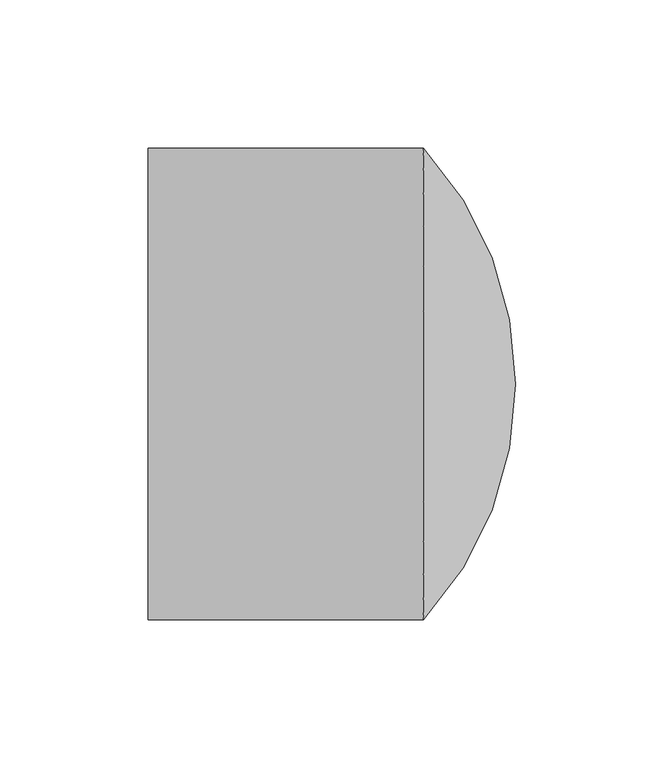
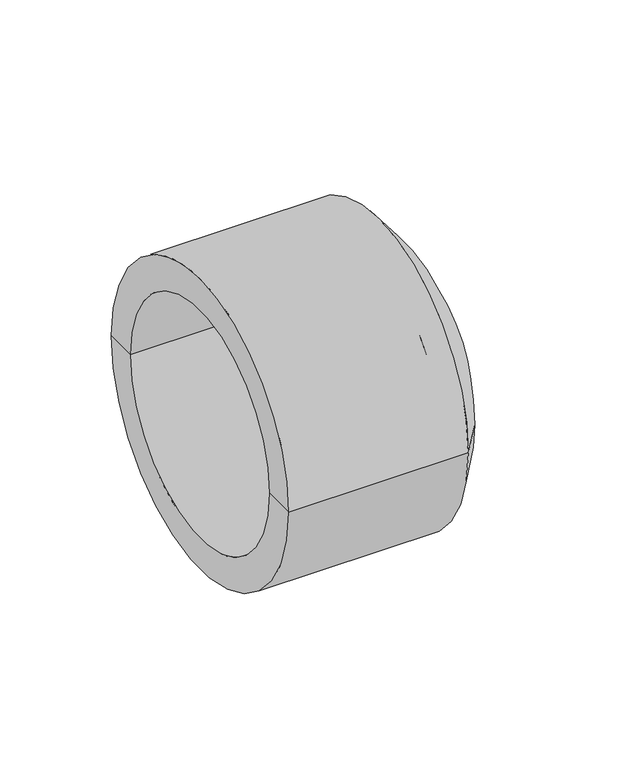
"""IFC4 building model written with IfcOpenShell, lengths in millimetres: pipe fitting geometry, EGB_VASEN_ PPR_Tapon a tope WXB700 : Tapón a tope WXRB700."""

from ifc_helpers import new_model, si_unit, point, frame, origin, place, context, project, spatial, polyline, circle_curve, ellipse_curve, trimmed, source, transform, mapped, element, save
from ifc_brep_helpers import plane_surface, cylinder_surface, revolved_surface, advanced_brep


def pipe_fitting_498d0c6c(model_context):
    return source(origin(), model_context, "Body", "AdvancedBrep", [
        advanced_brep(
        [(0.0, -79.5, 0.0), (0.0, 79.5, 0.0), (93.0, 79.5, 0.0), (93.0, -79.5, 0.0), (0.0, -62.5, 0.0), (0.0, 62.5, 0.0), (85.1982207, -62.5, 0.0), (85.1982207, 62.5, 0.0), (107.0, 0.0, 0.0), (124.0, 0.0, 0.0)],
        [
            (0, 1, circle_curve(frame((0.0, 0.0, 0.0), z_axis=(1.0, 0.0, 0.0), x_axis=(0.0, 1.0, 0.0)), 79.5)),
            (1, 2),
            (2, 3, circle_curve(frame((93.0, 0.0, 0.0), z_axis=(-1.0, 0.0, 0.0), x_axis=(0.0, 1.0, 0.0)), 79.5)),
            (3, 0),
            (1, 0, circle_curve(frame((0.0, 0.0, 0.0), z_axis=(1.0, 0.0, 0.0), x_axis=(0.0, 1.0, 0.0)), 79.5)),
            (3, 2, circle_curve(frame((93.0, 0.0, 0.0), z_axis=(-1.0, 0.0, 0.0), x_axis=(0.0, 1.0, 0.0)), 79.5)),
            (4, 5, circle_curve(frame((0.0, 0.0, 0.0), z_axis=(1.0, 0.0, 0.0), x_axis=(0.0, 1.0, 0.0)), 62.5)),
            (5, 1),
            (0, 4),
            (5, 4, circle_curve(frame((0.0, 0.0, 0.0), z_axis=(1.0, 0.0, 0.0), x_axis=(0.0, 1.0, 0.0)), 62.5)),
            (6, 7, circle_curve(frame((85.1982207, 0.0, 0.0), z_axis=(1.0, 0.0, 0.0), x_axis=(0.0, 1.0, 0.0)), 62.5)),
            (7, 5),
            (4, 6),
            (7, 6, circle_curve(frame((85.1982207, 0.0, 0.0), z_axis=(1.0, 0.0, 0.0), x_axis=(0.0, 1.0, 0.0)), 62.5)),
            (8, 7, circle_curve(frame((6.958891, 0.1553537, 0.0), z_axis=(0.0, 0.0, 1.0), x_axis=(1.0, 0.0, 0.0)), 100.0412296)),
            (6, 8, circle_curve(frame((6.958891, -0.1553537, 0.0), z_axis=(0.0, 0.0, 1.0), x_axis=(1.0, 0.0, 0.0)), 100.0412296)),
            (2, 9, circle_curve(frame((6.958891, 0.1553537, 0.0), z_axis=(0.0, 0.0, -1.0), x_axis=(1.0, 0.0, 0.0)), 117.0412121)),
            (9, 3, circle_curve(frame((6.958891, -0.1553537, 0.0), z_axis=(0.0, 0.0, -1.0), x_axis=(1.0, 0.0, 0.0)), 117.0412121)),
        ],
        [
            cylinder_surface(frame((8.258615, 0.0, 0.0), z_axis=(-1.0, 0.0, 0.0), x_axis=(0.0, 1.0, 0.0)), 79.5),
            plane_surface(frame((0.0, 0.0, 0.0), z_axis=(-1.0, 0.0, 0.0), x_axis=(0.0, 1.0, 0.0))),
            revolved_surface(polyline([(0.0, 62.5, 0.0), (85.1982207, 62.5, 0.0)]), (8.258615, 0.0, 0.0), (-1.0, 0.0, 0.0)),
            revolved_surface(trimmed(ellipse_curve(frame((6.958891, 0.1553537, 0.0), z_axis=(0.0, 0.0, -1.0), x_axis=(1.0, 0.0, 0.0)), 100.0412296, 100.0412296), [point((85.1982207, 62.5, 0.0))], [point((107.0, 0.0, 0.0))], True, "CARTESIAN"), (8.258615, 0.0, 0.0), (-1.0, 0.0, 0.0)),
            revolved_surface(trimmed(ellipse_curve(frame((6.958891, 0.1553537, 0.0), z_axis=(0.0, 0.0, 1.0), x_axis=(1.0, 0.0, 0.0)), 117.0412121, 117.0412121), [point((124.0, 0.0, 0.0))], [point((93.0, 79.5, 0.0))], True, "CARTESIAN"), (8.258615, 0.0, 0.0), (-1.0, 0.0, 0.0)),
        ],
        [
            (0, [[1, 2, 3, 4]]),
            (0, [[5, -4, 6, -2]]),
            (1, [[7, 8, -1, 9]]),
            (1, [[10, -9, -5, -8]]),
            (2, [[11, 12, -7, 13]]),
            (2, [[14, -13, -10, -12]]),
            (3, [[15, -11, 16]]),
            (3, [[-16, -14, -15]]),
            (4, [[-3, 17, 18]]),
            (4, [[-6, -18, -17]]),
        ],
    ),
    ])


if __name__ == "__main__":
    model = new_model("IFC4")
    model_context = context("Model", 3, world=origin())
    ifc_project = project(units=[si_unit("LENGTHUNIT", "METRE", prefix="MILLI")], contexts=[model_context])
    site = spatial("IfcSite", under=ifc_project)
    building = spatial("IfcBuilding", under=site)
    placement = place(None, origin())
    pipe_fitting_shape = pipe_fitting_498d0c6c(model_context)
    element("IfcPipeFitting", 1, ObjectType="EGB_VASEN_ PPR_Tapon a tope WXB700 : Tapón a tope WXRB700", at=placement, inside=building, context=model_context, shape_type="MappedRepresentation", body=[
        mapped(pipe_fitting_shape, transform((0.0, 0.0, 0.0), x_axis=(1.0, 0.0, 0.0), y_axis=(0.0, 1.0, 0.0), z_axis=(0.0, 0.0, 1.0))),
    ])
    save(model, "model.ifc")
